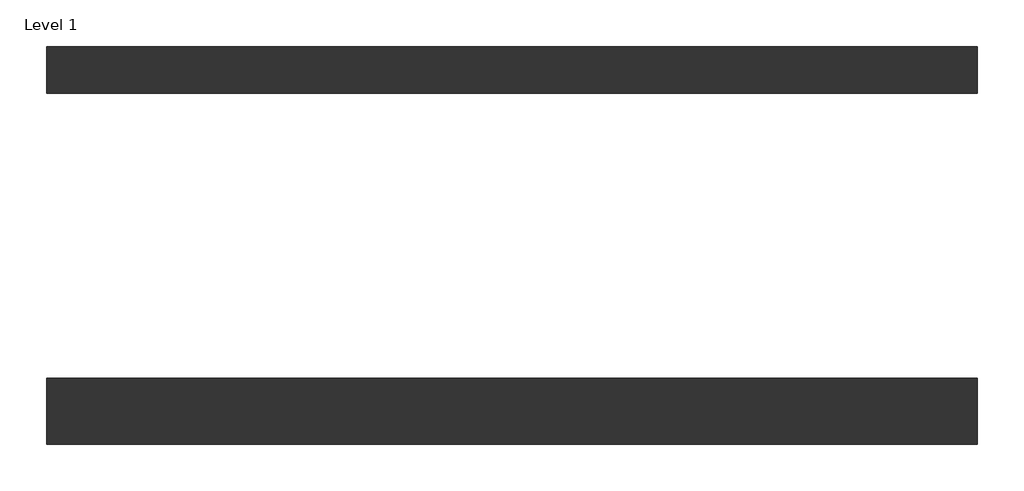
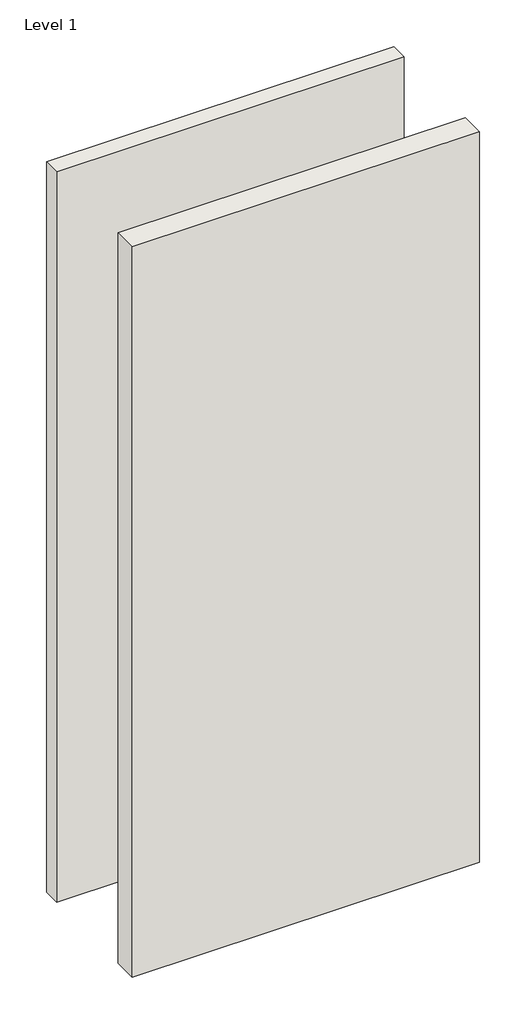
# One storey: 2 walls.
"""IFC4 building model written with IfcOpenShell, lengths in millimetres."""

from ifc_helpers import new_model, si_unit, origin, origin_with_axes, place, context, project, spatial, polyline, outline, extrude, element, save

model = new_model("IFC4")

# Units and contexts
model_context = context("Model", 3, world=origin())
ifc_project = project(units=[si_unit("LENGTHUNIT", "METRE", prefix="MILLI")], contexts=[model_context])

# Site, building, storey
site = spatial("IfcSite", under=ifc_project)
building = spatial("IfcBuilding", under=site)
storey = spatial("IfcBuildingStorey", under=building, Name="Level 1", Elevation=0.0)

# Walls
placement = place(None, origin())
element("IfcWall", 1, ObjectType="Interior-Steel Frame-Shaft Wall-CSR7665-128mm", at=placement, inside=storey, context=model_context, shape_type="SweptSolid", body=[
    extrude(outline(polyline([(-207.7468656, -1914.2889749), (1592.2531344, -1914.2889749), (1592.2531344, -2042.2889749), (-207.7468656, -2042.2889749), (-207.7468656, -1914.2889749)])), origin_with_axes(), (0.0, 0.0, 1.0), 4000.0),
])
element("IfcWall", 2, ObjectType="Interior-Steel Frame-Shaft Wall-CSR7665-90mm", at=placement, inside=storey, context=model_context, shape_type="SweptSolid", body=[
    extrude(outline(polyline([(-207.7468656, -1273.2889749), (1592.2531344, -1273.2889749), (1592.2531344, -1363.2889749), (-207.7468656, -1363.2889749), (-207.7468656, -1273.2889749)])), origin_with_axes(), (0.0, 0.0, 1.0), 4000.0),
])

save(model, "model.ifc")
